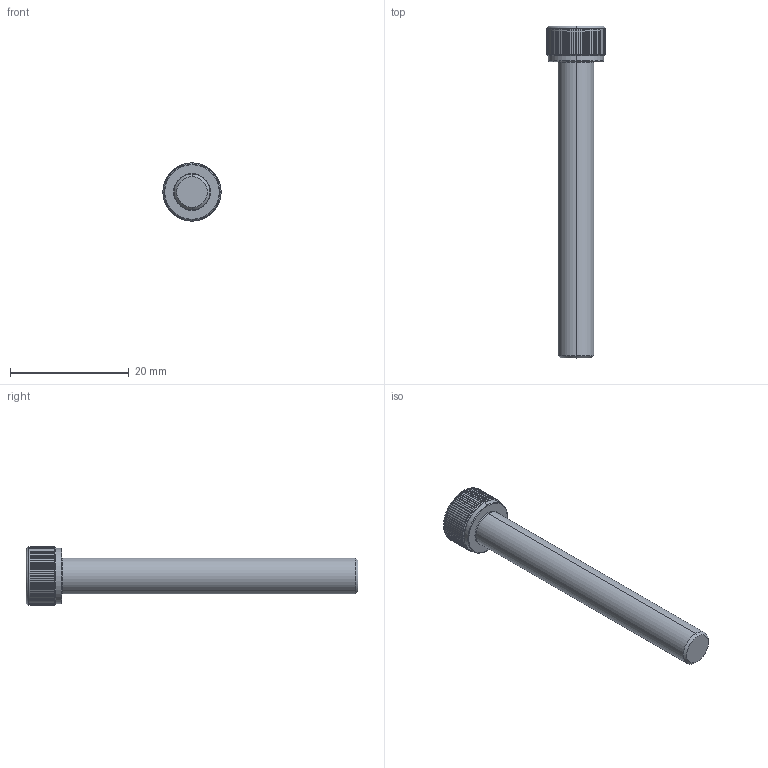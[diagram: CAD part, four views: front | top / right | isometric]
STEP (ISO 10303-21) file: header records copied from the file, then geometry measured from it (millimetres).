
FILE_DESCRIPTION (( 'STEP AP203' ), '1' );
FILE_NAME ('LGDT-304-M6x50.STEP', '2026-08-10T04:49:47', ( '' ), ( '' ), 'SwSTEP 2.0', 'SolidWorks 2020', '' );
FILE_SCHEMA (( 'CONFIG_CONTROL_DESIGN' ));
Length unit declared in the file: millimetre
Products named in the file (1): LGDT-304-M6x50
Bounding box: 9.8 x 56 x 9.8 mm (x, y, z)
Volume: 1780.4 mm3; surface area: 1320.2 mm2
Topology: 1 solids, 1 shells, 204 faces, 576 edges, 376 vertices
Faces by surface type: cylinder 175, cone 11, plane 10, torus 8
Entity records: 8367 total; most frequent: CARTESIAN_POINT 3208, ORIENTED_EDGE 1152, DIRECTION 988, EDGE_CURVE 576, AXIS2_PLACEMENT_3D 398, VERTEX_POINT 376, EDGE_LOOP 206, FACE_OUTER_BOUND 204
